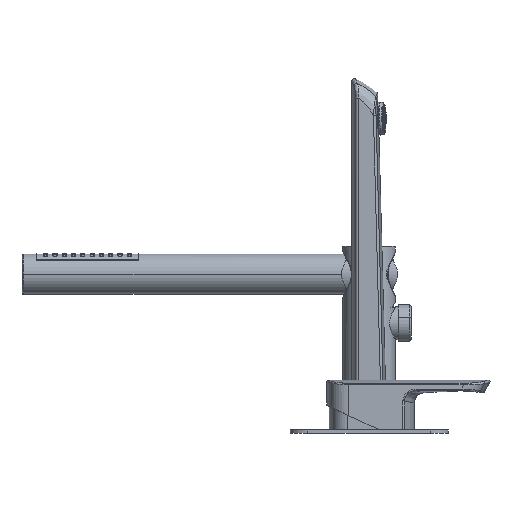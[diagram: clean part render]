
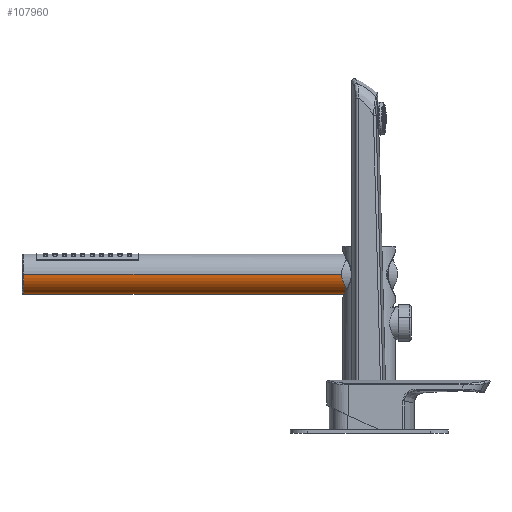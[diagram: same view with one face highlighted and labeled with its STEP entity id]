
A CAD part, left-side view. The second image highlights one B-rep face of the part: STEP entity #107960.
In plain terms, the highlighted cylindrical face has radius 11.5 mm (diameter 23 mm), a partial arc.
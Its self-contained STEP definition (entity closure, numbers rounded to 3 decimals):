
#422 = LINE ( 'NONE', #17459, #58900 ) ;
#1192 = AXIS2_PLACEMENT_3D ( 'NONE', #65665, #58558, #49753 ) ;
#6619 = VERTEX_POINT ( 'NONE', #47246 ) ;
#6622 = ORIENTED_EDGE ( 'NONE', *, *, #30036, .T. ) ;
#7418 = ORIENTED_EDGE ( 'NONE', *, *, #107114, .F. ) ;
#12389 = CYLINDRICAL_SURFACE ( 'NONE', #100237, 11.5 ) ;
#13550 = CARTESIAN_POINT ( 'NONE',  ( 185.652, 112.158, 311.18 ) ) ;
#15159 = EDGE_CURVE ( 'NONE', #67486, #23760, #49869, .T. ) ;
#17401 = DIRECTION ( 'NONE',  ( 0., 1., 0. ) ) ;
#17459 = CARTESIAN_POINT ( 'NONE',  ( 162.652, 112.158, 311.18 ) ) ;
#19674 = CARTESIAN_POINT ( 'NONE',  ( 185.652, -25.342, 311.18 ) ) ;
#21369 = CARTESIAN_POINT ( 'NONE',  ( 162.652, 158.158, 311.18 ) ) ;
#21635 = CARTESIAN_POINT ( 'NONE',  ( 174.152, 112.158, 311.18 ) ) ;
#22288 = DIRECTION ( 'NONE',  ( 0., 1., 0. ) ) ;
#23760 = VERTEX_POINT ( 'NONE', #62543 ) ;
#24947 = ORIENTED_EDGE ( 'NONE', *, *, #61294, .T. ) ;
#30036 = EDGE_CURVE ( 'NONE', #23760, #83490, #422, .T. ) ;
#31701 = DIRECTION ( 'NONE',  ( -1., 0., 0. ) ) ;
#32277 = DIRECTION ( 'NONE',  ( 0., 1., 0. ) ) ;
#35224 = VECTOR ( 'NONE', #22288, 1000. ) ;
#46834 = DIRECTION ( 'NONE',  ( 0., 1., 0. ) ) ;
#47246 = CARTESIAN_POINT ( 'NONE',  ( 185.652, 158.158, 311.18 ) ) ;
#49753 = DIRECTION ( 'NONE',  ( -1., 0., 0. ) ) ;
#49869 = CIRCLE ( 'NONE', #81474, 11.5 ) ;
#58558 = DIRECTION ( 'NONE',  ( 0., -1., 0. ) ) ;
#58900 = VECTOR ( 'NONE', #32277, 1000. ) ;
#61036 = ORIENTED_EDGE ( 'NONE', *, *, #15159, .T. ) ;
#61294 = EDGE_CURVE ( 'NONE', #83490, #6619, #99290, .T. ) ;
#62543 = CARTESIAN_POINT ( 'NONE',  ( 162.652, -25.342, 311.18 ) ) ;
#65665 = CARTESIAN_POINT ( 'NONE',  ( 174.152, 158.158, 311.18 ) ) ;
#67486 = VERTEX_POINT ( 'NONE', #19674 ) ;
#72155 = LINE ( 'NONE', #13550, #35224 ) ;
#80313 = DIRECTION ( 'NONE',  ( -1., 0., 0. ) ) ;
#81108 = EDGE_LOOP ( 'NONE', ( #7418, #61036, #6622, #24947 ) ) ;
#81474 = AXIS2_PLACEMENT_3D ( 'NONE', #92488, #17401, #31701 ) ;
#83490 = VERTEX_POINT ( 'NONE', #21369 ) ;
#87493 = FACE_OUTER_BOUND ( 'NONE', #81108, .T. ) ;
#92488 = CARTESIAN_POINT ( 'NONE',  ( 174.152, -25.342, 311.18 ) ) ;
#99290 = CIRCLE ( 'NONE', #1192, 11.5 ) ;
#100237 = AXIS2_PLACEMENT_3D ( 'NONE', #21635, #46834, #80313 ) ;
#107114 = EDGE_CURVE ( 'NONE', #67486, #6619, #72155, .T. ) ;
#107960 = ADVANCED_FACE ( 'NONE', ( #87493 ), #12389, .T. ) ;
